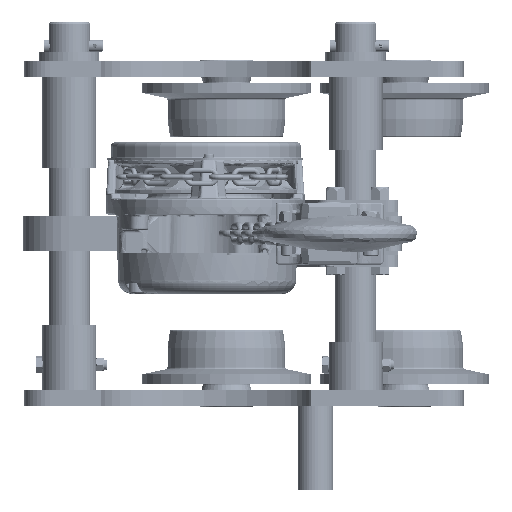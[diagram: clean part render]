
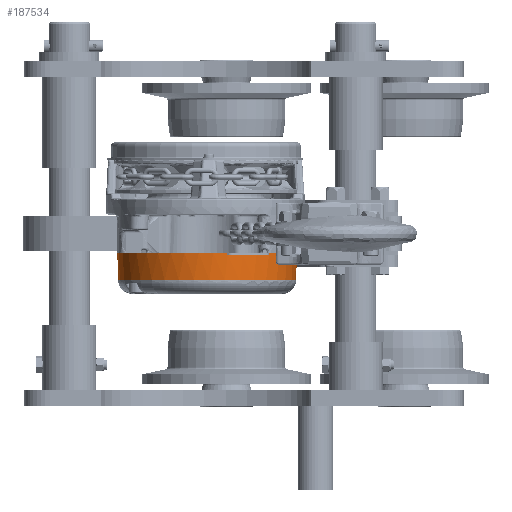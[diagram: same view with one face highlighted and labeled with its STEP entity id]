
A CAD part, front view. The second image highlights one B-rep face of the part: STEP entity #187534.
In plain terms, the highlighted conical face has half-angle 2 degrees and reference radius 90 mm.
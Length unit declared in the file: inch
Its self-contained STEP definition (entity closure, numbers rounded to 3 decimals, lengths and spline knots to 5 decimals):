
#9789 = CARTESIAN_POINT ( 'NONE',  ( -0.71254, -3.46989, 0.02901 ) ) ;
#9916 = DIRECTION ( 'NONE',  ( 0., 0., -1. ) ) ;
#16821 = CARTESIAN_POINT ( 'NONE',  ( 0., 0., 0. ) ) ;
#18119 = CARTESIAN_POINT ( 'NONE',  ( -2.36705, -2.63207, 0.09843 ) ) ;
#18851 = CARTESIAN_POINT ( 'NONE',  ( 0., 0., 0. ) ) ;
#21889 = DIRECTION ( 'NONE',  ( 0., 0., 1. ) ) ;
#23240 = VERTEX_POINT ( 'NONE', #273557 ) ;
#28534 = EDGE_CURVE ( 'NONE', #42265, #23240, #143329, .T. ) ;
#28625 = ORIENTED_EDGE ( 'NONE', *, *, #287823, .F. ) ;
#32423 = B_SPLINE_CURVE_WITH_KNOTS ( 'NONE', 3,
 ( #111693, #85601, #300314, #271292, #131660, #229753, #113213, #18119 ),
 .UNSPECIFIED., .F., .F.,
 ( 4, 2, 2, 4 ),
 ( 0., 0.00013, 0.00027, 0.00054 ),
 .UNSPECIFIED. ) ;
#35913 = CARTESIAN_POINT ( 'NONE',  ( -0.71289, -3.46768, 0.08895 ) ) ;
#37264 = EDGE_CURVE ( 'NONE', #66634, #285177, #40722, .T. ) ;
#38260 = CONICAL_SURFACE ( 'NONE', #116644, 3.54331, 0.035 ) ;
#40722 = B_SPLINE_CURVE_WITH_KNOTS ( 'NONE', 3,
 ( #187829, #164768, #9789, #175395 ),
 .UNSPECIFIED., .F., .F.,
 ( 4, 4 ),
 ( 0.00029, 0.0025 ),
 .UNSPECIFIED. ) ;
#40980 = DIRECTION ( 'NONE',  ( -1., 0., 0. ) ) ;
#42265 = VERTEX_POINT ( 'NONE', #215057 ) ;
#46217 = EDGE_CURVE ( 'NONE', #285177, #23240, #71044, .T. ) ;
#50627 = ORIENTED_EDGE ( 'NONE', *, *, #28534, .F. ) ;
#54397 = CIRCLE ( 'NONE', #181580, 3.53987 ) ;
#60078 = ORIENTED_EDGE ( 'NONE', *, *, #141359, .T. ) ;
#61906 = FACE_OUTER_BOUND ( 'NONE', #276451, .T. ) ;
#66634 = VERTEX_POINT ( 'NONE', #226393 ) ;
#68357 = EDGE_CURVE ( 'NONE', #237876, #100176, #300027, .T. ) ;
#68831 = ORIENTED_EDGE ( 'NONE', *, *, #298099, .T. ) ;
#71044 = CIRCLE ( 'NONE', #276941, 3.54331 ) ;
#77939 = ORIENTED_EDGE ( 'NONE', *, *, #271921, .F. ) ;
#84941 = DIRECTION ( 'NONE',  ( 1., 0., 0. ) ) ;
#85601 = CARTESIAN_POINT ( 'NONE',  ( -2.37879, -2.62191, 0.08882 ) ) ;
#90295 = DIRECTION ( 'NONE',  ( 1., 0., 0. ) ) ;
#91448 = CARTESIAN_POINT ( 'NONE',  ( 0., 0., 1.10191 ) ) ;
#100176 = VERTEX_POINT ( 'NONE', #184298 ) ;
#103425 = CARTESIAN_POINT ( 'NONE',  ( -0.71363, -3.46746, 0.09079 ) ) ;
#111693 = CARTESIAN_POINT ( 'NONE',  ( -2.37885, -2.62194, 0.08703 ) ) ;
#113213 = CARTESIAN_POINT ( 'NONE',  ( -2.3697, -2.62968, 0.09843 ) ) ;
#116644 = AXIS2_PLACEMENT_3D ( 'NONE', #175516, #9916, #84941 ) ;
#120126 = B_SPLINE_CURVE_WITH_KNOTS ( 'NONE', 3,
 ( #239499, #287011, #170429, #264046 ),
 .UNSPECIFIED., .F., .F.,
 ( 4, 4 ),
 ( 0.00029, 0.0025 ),
 .UNSPECIFIED. ) ;
#122532 = CARTESIAN_POINT ( 'NONE',  ( -3.50483, 0., 1.10191 ) ) ;
#124459 = ORIENTED_EDGE ( 'NONE', *, *, #37264, .T. ) ;
#131660 = CARTESIAN_POINT ( 'NONE',  ( -2.37577, -2.62437, 0.09472 ) ) ;
#139734 = ORIENTED_EDGE ( 'NONE', *, *, #46217, .T. ) ;
#141359 = EDGE_CURVE ( 'NONE', #100176, #286418, #156887, .T. ) ;
#143329 = LINE ( 'NONE', #261429, #227160 ) ;
#150960 = CARTESIAN_POINT ( 'NONE',  ( -0.72972, -3.46384, 0.09843 ) ) ;
#156887 = CIRCLE ( 'NONE', #293981, 3.54331 ) ;
#157023 = ORIENTED_EDGE ( 'NONE', *, *, #168158, .T. ) ;
#159882 = DIRECTION ( 'NONE',  ( 1., 0., 0. ) ) ;
#164768 = CARTESIAN_POINT ( 'NONE',  ( -0.71271, -3.46882, 0.05802 ) ) ;
#168158 = EDGE_CURVE ( 'NONE', #216360, #280504, #32423, .T. ) ;
#170429 = CARTESIAN_POINT ( 'NONE',  ( -2.38088, -2.62284, 0.02901 ) ) ;
#174115 = ORIENTED_EDGE ( 'NONE', *, *, #301178, .T. ) ;
#175218 = DIRECTION ( 'NONE',  ( -1., 0., 0. ) ) ;
#175395 = CARTESIAN_POINT ( 'NONE',  ( -0.71236, -3.47096, 0. ) ) ;
#175516 = CARTESIAN_POINT ( 'NONE',  ( 0., 0., 0. ) ) ;
#178474 = CARTESIAN_POINT ( 'NONE',  ( -0.72599, -3.46463, 0.09843 ) ) ;
#180550 = DIRECTION ( 'NONE',  ( 0., 0., -1. ) ) ;
#181580 = AXIS2_PLACEMENT_3D ( 'NONE', #198218, #244262, #175218 ) ;
#183696 = AXIS2_PLACEMENT_3D ( 'NONE', #91448, #180550, #40980 ) ;
#184298 = CARTESIAN_POINT ( 'NONE',  ( -3.54331, 0., 0. ) ) ;
#185416 = DIRECTION ( 'NONE',  ( 0., 0., 1. ) ) ;
#187534 = ADVANCED_FACE ( 'NONE', ( #61906 ), #38260, .T. ) ;
#187829 = CARTESIAN_POINT ( 'NONE',  ( -0.71288, -3.46775, 0.08703 ) ) ;
#188126 = CARTESIAN_POINT ( 'NONE',  ( -2.37885, -2.62194, 0.08703 ) ) ;
#192711 = CARTESIAN_POINT ( 'NONE',  ( -0.71236, -3.47096, 0. ) ) ;
#195461 = CARTESIAN_POINT ( 'NONE',  ( -0.71288, -3.46775, 0.08703 ) ) ;
#198218 = CARTESIAN_POINT ( 'NONE',  ( 0., 0., 0.09843 ) ) ;
#215057 = CARTESIAN_POINT ( 'NONE',  ( 3.50483, 0., 1.10191 ) ) ;
#216360 = VERTEX_POINT ( 'NONE', #188126 ) ;
#216923 = VERTEX_POINT ( 'NONE', #239832 ) ;
#224479 = CARTESIAN_POINT ( 'NONE',  ( -0.71591, -3.46689, 0.09379 ) ) ;
#226393 = CARTESIAN_POINT ( 'NONE',  ( -0.71288, -3.46775, 0.08703 ) ) ;
#226465 = B_SPLINE_CURVE_WITH_KNOTS ( 'NONE', 3,
 ( #150960, #178474, #267539, #244508, #224479, #103425, #35913, #195461 ),
 .UNSPECIFIED., .F., .F.,
 ( 4, 2, 2, 4 ),
 ( 0., 0.00029, 0.00043, 0.00057 ),
 .UNSPECIFIED. ) ;
#227160 = VECTOR ( 'NONE', #236880, 39.37008 ) ;
#229753 = CARTESIAN_POINT ( 'NONE',  ( -2.37235, -2.62733, 0.09758 ) ) ;
#236880 = DIRECTION ( 'NONE',  ( 0.035, 0., -0.999 ) ) ;
#237876 = VERTEX_POINT ( 'NONE', #122532 ) ;
#239499 = CARTESIAN_POINT ( 'NONE',  ( -2.37885, -2.62194, 0.08703 ) ) ;
#239832 = CARTESIAN_POINT ( 'NONE',  ( -0.72972, -3.46384, 0.09843 ) ) ;
#242278 = CARTESIAN_POINT ( 'NONE',  ( -2.38189, -2.62329, 0. ) ) ;
#244262 = DIRECTION ( 'NONE',  ( 0., 0., -1. ) ) ;
#244508 = CARTESIAN_POINT ( 'NONE',  ( -0.71742, -3.46653, 0.09496 ) ) ;
#247406 = CIRCLE ( 'NONE', #183696, 3.50483 ) ;
#247990 = CARTESIAN_POINT ( 'NONE',  ( -2.36705, -2.63207, 0.09843 ) ) ;
#261429 = CARTESIAN_POINT ( 'NONE',  ( 3.54331, 0., 0. ) ) ;
#264046 = CARTESIAN_POINT ( 'NONE',  ( -2.38189, -2.62329, 0. ) ) ;
#267539 = CARTESIAN_POINT ( 'NONE',  ( -0.72229, -3.46543, 0.09766 ) ) ;
#271292 = CARTESIAN_POINT ( 'NONE',  ( -2.37678, -2.62351, 0.0935 ) ) ;
#271921 = EDGE_CURVE ( 'NONE', #216360, #286418, #120126, .T. ) ;
#272923 = ORIENTED_EDGE ( 'NONE', *, *, #68357, .T. ) ;
#273557 = CARTESIAN_POINT ( 'NONE',  ( 3.54331, 0., 0. ) ) ;
#276451 = EDGE_LOOP ( 'NONE', ( #68831, #272923, #60078, #77939, #157023, #28625, #174115, #124459, #139734, #50627 ) ) ;
#276941 = AXIS2_PLACEMENT_3D ( 'NONE', #18851, #21889, #159882 ) ;
#278502 = DIRECTION ( 'NONE',  ( -0.035, 0., -0.999 ) ) ;
#280040 = CARTESIAN_POINT ( 'NONE',  ( -3.54331, 0., 0. ) ) ;
#280504 = VERTEX_POINT ( 'NONE', #247990 ) ;
#285177 = VERTEX_POINT ( 'NONE', #192711 ) ;
#286418 = VERTEX_POINT ( 'NONE', #242278 ) ;
#287011 = CARTESIAN_POINT ( 'NONE',  ( -2.37986, -2.62239, 0.05802 ) ) ;
#287823 = EDGE_CURVE ( 'NONE', #216923, #280504, #54397, .T. ) ;
#288889 = VECTOR ( 'NONE', #278502, 39.37008 ) ;
#293981 = AXIS2_PLACEMENT_3D ( 'NONE', #16821, #185416, #90295 ) ;
#298099 = EDGE_CURVE ( 'NONE', #42265, #237876, #247406, .T. ) ;
#300027 = LINE ( 'NONE', #280040, #288889 ) ;
#300314 = CARTESIAN_POINT ( 'NONE',  ( -2.37831, -2.62227, 0.09055 ) ) ;
#301178 = EDGE_CURVE ( 'NONE', #216923, #66634, #226465, .T. ) ;
